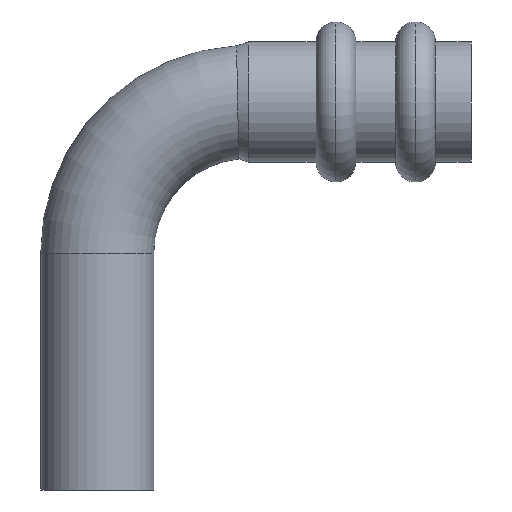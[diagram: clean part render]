
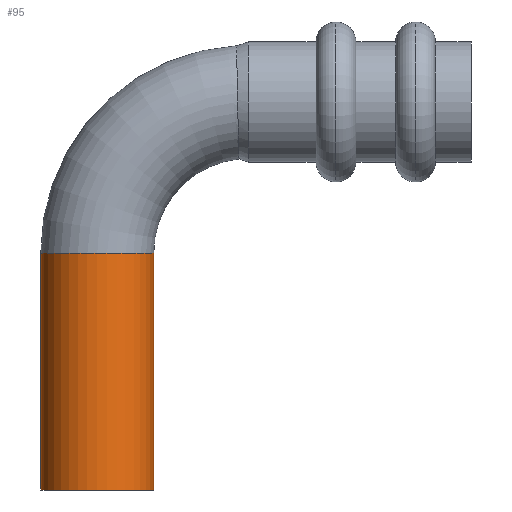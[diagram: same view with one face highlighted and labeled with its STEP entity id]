
A CAD part, front view. The second image highlights one B-rep face of the part: STEP entity #95.
In plain terms, the highlighted cylindrical face has radius 7.1 mm (diameter 14.2 mm), a partial arc.
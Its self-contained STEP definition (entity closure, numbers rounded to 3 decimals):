
#95=ADVANCED_FACE('',(#220),#221,.T.);
#220=FACE_OUTER_BOUND('',#379,.T.);
#221=CYLINDRICAL_SURFACE('',#380,7.1);
#379=EDGE_LOOP('',(#592,#593,#594,#595,#596));
#380=AXIS2_PLACEMENT_3D('',#597,#598,#599);
#592=ORIENTED_EDGE('',*,*,#944,.F.);
#593=ORIENTED_EDGE('',*,*,#903,.F.);
#594=ORIENTED_EDGE('',*,*,#902,.F.);
#595=ORIENTED_EDGE('',*,*,#945,.F.);
#596=ORIENTED_EDGE('',*,*,#946,.F.);
#597=CARTESIAN_POINT('',(0.,0.0,15.254));
#598=DIRECTION('',(0.,0.0,-1.0));
#599=DIRECTION('',(1.0,0.0,0.));
#902=EDGE_CURVE('',#1057,#1060,#1061,.T.);
#903=EDGE_CURVE('',#1060,#1062,#1063,.T.);
#944=EDGE_CURVE('',#1062,#1124,#1125,.T.);
#945=EDGE_CURVE('',#1126,#1057,#1127,.T.);
#946=EDGE_CURVE('',#1124,#1126,#1128,.T.);
#1057=VERTEX_POINT('',#1377);
#1060=VERTEX_POINT('',#1380);
#1061=CIRCLE('',#1381,7.1);
#1062=VERTEX_POINT('',#1382);
#1063=CIRCLE('',#1383,7.1);
#1124=VERTEX_POINT('',#1465);
#1125=LINE('',#1466,#1467);
#1126=VERTEX_POINT('',#1468);
#1127=LINE('',#1469,#1470);
#1128=CIRCLE('',#1471,7.1);
#1377=CARTESIAN_POINT('',(-7.1,0.,30.));
#1380=CARTESIAN_POINT('',(0.,-7.1,30.));
#1381=AXIS2_PLACEMENT_3D('',#1753,#1754,#1755);
#1382=CARTESIAN_POINT('',(7.1,0.,30.));
#1383=AXIS2_PLACEMENT_3D('',#1756,#1757,#1758);
#1465=CARTESIAN_POINT('',(7.1,0.0,0.254));
#1466=CARTESIAN_POINT('',(7.1,0.,15.254));
#1467=VECTOR('',#1842,1.0);
#1468=CARTESIAN_POINT('',(-7.1,0.,0.254));
#1469=CARTESIAN_POINT('',(-7.1,0.,15.254));
#1470=VECTOR('',#1843,1.0);
#1471=AXIS2_PLACEMENT_3D('',#1844,#1845,#1846);
#1753=CARTESIAN_POINT('',(0.0,0.,30.));
#1754=DIRECTION('',(0.,0.,1.0));
#1755=DIRECTION('',(-1.0,0.,0.));
#1756=CARTESIAN_POINT('',(0.0,0.,30.));
#1757=DIRECTION('',(0.,0.,1.0));
#1758=DIRECTION('',(-1.0,0.,0.));
#1842=DIRECTION('',(0.,0.0,-1.0));
#1843=DIRECTION('',(0.,-0.0,1.0));
#1844=CARTESIAN_POINT('',(0.0,0.0,0.254));
#1845=DIRECTION('',(0.,0.0,-1.0));
#1846=DIRECTION('',(1.0,0.0,0.));
